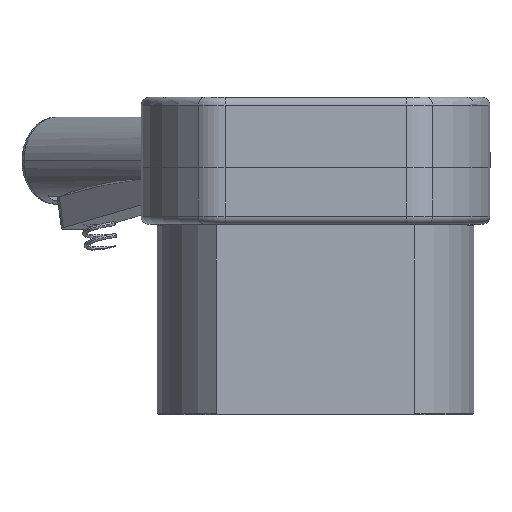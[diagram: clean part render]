
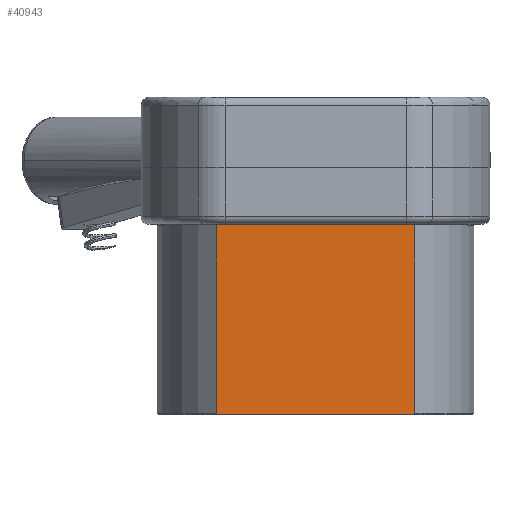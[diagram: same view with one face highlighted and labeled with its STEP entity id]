
A CAD part, top view. The second image highlights one B-rep face of the part: STEP entity #40943.
In plain terms, the highlighted planar face has unit normal (0, 0, 1).
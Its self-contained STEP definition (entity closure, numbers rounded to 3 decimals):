
#282 = CARTESIAN_POINT ( 'NONE',  ( 9.733, -14.257, 26.823 ) ) ;
#403 = LINE ( 'NONE', #37818, #19917 ) ;
#729 = EDGE_CURVE ( 'NONE', #28199, #22178, #21461, .T. ) ;
#1169 = CARTESIAN_POINT ( 'NONE',  ( 9.733, 9.543, 26.823 ) ) ;
#1214 = ORIENTED_EDGE ( 'NONE', *, *, #37134, .T. ) ;
#1599 = CARTESIAN_POINT ( 'NONE',  ( -15.245, 9.576, 26.823 ) ) ;
#2133 = EDGE_CURVE ( 'NONE', #39582, #49049, #4276, .T. ) ;
#2838 = CARTESIAN_POINT ( 'NONE',  ( -15.299, -14.257, 26.823 ) ) ;
#2996 = DIRECTION ( 'NONE',  ( 1., 0., 0. ) ) ;
#4276 = B_SPLINE_CURVE_WITH_KNOTS ( 'NONE', 3,
 ( #1169, #24528, #20597, #28436 ),
 .UNSPECIFIED., .F., .F.,
 ( 4, 4 ),
 ( 0., 0. ),
 .UNSPECIFIED. ) ;
#5503 = CARTESIAN_POINT ( 'NONE',  ( -15.192, 9.609, 26.823 ) ) ;
#6416 = CARTESIAN_POINT ( 'NONE',  ( -15.138, -14.357, 26.823 ) ) ;
#7311 = ORIENTED_EDGE ( 'NONE', *, *, #43688, .F. ) ;
#8023 = ORIENTED_EDGE ( 'NONE', *, *, #12955, .F. ) ;
#8041 = VECTOR ( 'NONE', #39709, 1000. ) ;
#8479 = CARTESIAN_POINT ( 'NONE',  ( -15.299, -14.357, 26.823 ) ) ;
#9437 = LINE ( 'NONE', #9482, #39349 ) ;
#9438 = CARTESIAN_POINT ( 'NONE',  ( -15.299, 9.543, 26.823 ) ) ;
#9482 = CARTESIAN_POINT ( 'NONE',  ( 9.733, -14.357, 26.823 ) ) ;
#9877 = ORIENTED_EDGE ( 'NONE', *, *, #16339, .T. ) ;
#11602 = CARTESIAN_POINT ( 'NONE',  ( -15.299, -14.357, 26.823 ) ) ;
#12955 = EDGE_CURVE ( 'NONE', #45366, #49049, #26814, .T. ) ;
#13566 = DIRECTION ( 'NONE',  ( 0., 1., 0. ) ) ;
#13571 = CARTESIAN_POINT ( 'NONE',  ( 9.733, -14.257, 26.823 ) ) ;
#14597 = CARTESIAN_POINT ( 'NONE',  ( -15.299, 9.643, 26.823 ) ) ;
#15219 = VECTOR ( 'NONE', #2996, 1000. ) ;
#15529 = ORIENTED_EDGE ( 'NONE', *, *, #729, .T. ) ;
#15533 = DIRECTION ( 'NONE',  ( 0., 0., 1. ) ) ;
#15899 = CARTESIAN_POINT ( 'NONE',  ( -15.138, 9.643, 26.823 ) ) ;
#16339 = EDGE_CURVE ( 'NONE', #28300, #35908, #39287, .T. ) ;
#18359 = DIRECTION ( 'NONE',  ( 1., 0., 0. ) ) ;
#19917 = VECTOR ( 'NONE', #18359, 1000. ) ;
#20597 = CARTESIAN_POINT ( 'NONE',  ( 9.626, 9.609, 26.823 ) ) ;
#20718 = EDGE_CURVE ( 'NONE', #45366, #48158, #32685, .T. ) ;
#21461 = B_SPLINE_CURVE_WITH_KNOTS ( 'NONE', 3,
 ( #45348, #21925, #29770, #6416 ),
 .UNSPECIFIED., .F., .F.,
 ( 4, 4 ),
 ( 0., 0. ),
 .UNSPECIFIED. ) ;
#21925 = CARTESIAN_POINT ( 'NONE',  ( -15.245, -14.291, 26.823 ) ) ;
#22178 = VERTEX_POINT ( 'NONE', #43797 ) ;
#24528 = CARTESIAN_POINT ( 'NONE',  ( 9.679, 9.576, 26.823 ) ) ;
#25773 = ORIENTED_EDGE ( 'NONE', *, *, #20718, .T. ) ;
#26345 = LINE ( 'NONE', #8479, #8041 ) ;
#26814 = LINE ( 'NONE', #14597, #15219 ) ;
#27117 = ORIENTED_EDGE ( 'NONE', *, *, #2133, .T. ) ;
#28199 = VERTEX_POINT ( 'NONE', #2838 ) ;
#28300 = VERTEX_POINT ( 'NONE', #36217 ) ;
#28436 = CARTESIAN_POINT ( 'NONE',  ( 9.572, 9.643, 26.823 ) ) ;
#29311 = EDGE_LOOP ( 'NONE', ( #1214, #9877, #37008, #27117, #8023, #25773, #7311, #15529 ) ) ;
#29770 = CARTESIAN_POINT ( 'NONE',  ( -15.192, -14.324, 26.823 ) ) ;
#31269 = AXIS2_PLACEMENT_3D ( 'NONE', #11602, #15533, #42842 ) ;
#32669 = CARTESIAN_POINT ( 'NONE',  ( 9.679, -14.291, 26.823 ) ) ;
#32685 = B_SPLINE_CURVE_WITH_KNOTS ( 'NONE', 3,
 ( #32789, #5503, #1599, #9438 ),
 .UNSPECIFIED., .F., .F.,
 ( 4, 4 ),
 ( 0., 0. ),
 .UNSPECIFIED. ) ;
#32789 = CARTESIAN_POINT ( 'NONE',  ( -15.138, 9.643, 26.823 ) ) ;
#32999 = CARTESIAN_POINT ( 'NONE',  ( 9.626, -14.324, 26.823 ) ) ;
#33476 = CARTESIAN_POINT ( 'NONE',  ( 9.733, 9.543, 26.823 ) ) ;
#35908 = VERTEX_POINT ( 'NONE', #282 ) ;
#36217 = CARTESIAN_POINT ( 'NONE',  ( 9.572, -14.357, 26.823 ) ) ;
#36948 = CARTESIAN_POINT ( 'NONE',  ( 9.572, -14.357, 26.823 ) ) ;
#37008 = ORIENTED_EDGE ( 'NONE', *, *, #50190, .T. ) ;
#37134 = EDGE_CURVE ( 'NONE', #22178, #28300, #403, .T. ) ;
#37209 = CARTESIAN_POINT ( 'NONE',  ( 9.572, 9.643, 26.823 ) ) ;
#37818 = CARTESIAN_POINT ( 'NONE',  ( -15.299, -14.357, 26.823 ) ) ;
#39287 = B_SPLINE_CURVE_WITH_KNOTS ( 'NONE', 3,
 ( #36948, #32999, #32669, #13571 ),
 .UNSPECIFIED., .F., .F.,
 ( 4, 4 ),
 ( 0., 0. ),
 .UNSPECIFIED. ) ;
#39349 = VECTOR ( 'NONE', #13566, 1000. ) ;
#39582 = VERTEX_POINT ( 'NONE', #33476 ) ;
#39709 = DIRECTION ( 'NONE',  ( 0., 1., 0. ) ) ;
#40943 = ADVANCED_FACE ( 'NONE', ( #46648 ), #46457, .T. ) ;
#42277 = CARTESIAN_POINT ( 'NONE',  ( -15.299, 9.543, 26.823 ) ) ;
#42842 = DIRECTION ( 'NONE',  ( 1., 0., 0. ) ) ;
#43688 = EDGE_CURVE ( 'NONE', #28199, #48158, #26345, .T. ) ;
#43797 = CARTESIAN_POINT ( 'NONE',  ( -15.138, -14.357, 26.823 ) ) ;
#45348 = CARTESIAN_POINT ( 'NONE',  ( -15.299, -14.257, 26.823 ) ) ;
#45366 = VERTEX_POINT ( 'NONE', #15899 ) ;
#46457 = PLANE ( 'NONE',  #31269 ) ;
#46648 = FACE_OUTER_BOUND ( 'NONE', #29311, .T. ) ;
#48158 = VERTEX_POINT ( 'NONE', #42277 ) ;
#49049 = VERTEX_POINT ( 'NONE', #37209 ) ;
#50190 = EDGE_CURVE ( 'NONE', #35908, #39582, #9437, .T. ) ;
